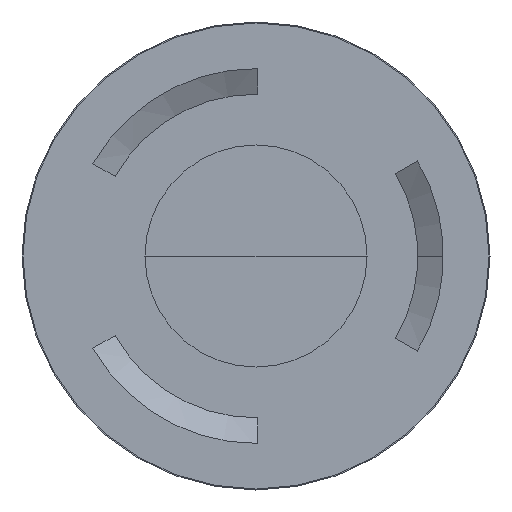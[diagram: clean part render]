
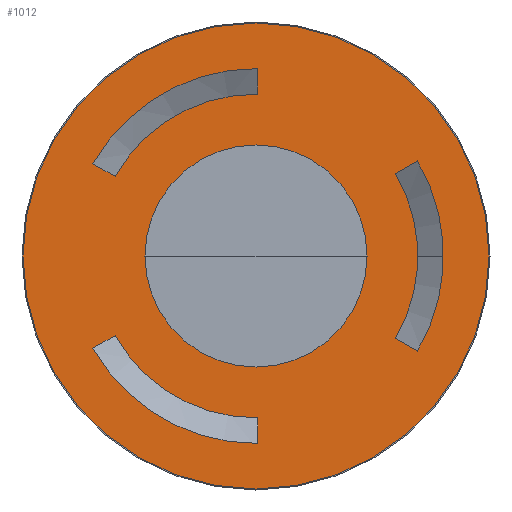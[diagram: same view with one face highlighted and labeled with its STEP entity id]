
A CAD part, front view. The second image highlights one B-rep face of the part: STEP entity #1012.
In plain terms, the highlighted planar face has unit normal (0, -1, 0).
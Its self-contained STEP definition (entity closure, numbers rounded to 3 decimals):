
#241=DIRECTION('',(0.866,0.,0.5));
#242=VECTOR('',#241,7.092);
#243=CARTESIAN_POINT('',(-45.208,-116.,-25.586));
#244=LINE('',#243,#242);
#245=CARTESIAN_POINT('',(0.,-116.,0.));
#246=DIRECTION('',(0.,1.,0.));
#247=DIRECTION('',(0.009,0.,-1.));
#248=AXIS2_PLACEMENT_3D('',#245,#246,#247);
#250=DIRECTION('',(0.,0.,-1.));
#251=VECTOR('',#250,7.092);
#252=CARTESIAN_POINT('',(0.446,-116.,-44.852));
#253=LINE('',#252,#251);
#254=CARTESIAN_POINT('',(0.,-116.,0.));
#255=DIRECTION('',(0.,-1.,0.));
#256=DIRECTION('',(-0.871,0.,-0.491));
#257=AXIS2_PLACEMENT_3D('',#254,#255,#256);
#259=CARTESIAN_POINT('',(0.,-116.,0.));
#260=DIRECTION('',(0.,-1.,0.));
#261=DIRECTION('',(0.861,0.,-0.509));
#262=AXIS2_PLACEMENT_3D('',#259,#260,#261);
#264=DIRECTION('',(-0.866,0.,0.5));
#265=VECTOR('',#264,7.092);
#266=CARTESIAN_POINT('',(44.762,-116.,-26.358));
#267=LINE('',#266,#265);
#268=CARTESIAN_POINT('',(0.,-116.,0.));
#269=DIRECTION('',(0.,1.,0.));
#270=DIRECTION('',(0.862,0.,0.507));
#271=AXIS2_PLACEMENT_3D('',#268,#269,#270);
#273=DIRECTION('',(0.866,0.,0.5));
#274=VECTOR('',#273,7.092);
#275=CARTESIAN_POINT('',(38.62,-116.,22.812));
#276=LINE('',#275,#274);
#277=DIRECTION('',(-0.866,0.,0.5));
#278=VECTOR('',#277,7.092);
#279=CARTESIAN_POINT('',(-39.066,-116.,22.04));
#280=LINE('',#279,#278);
#281=CARTESIAN_POINT('',(0.,-116.,0.));
#282=DIRECTION('',(0.,-1.,0.));
#283=DIRECTION('',(0.01,0.,1.));
#284=AXIS2_PLACEMENT_3D('',#281,#282,#283);
#286=DIRECTION('',(0.,0.,-1.));
#287=VECTOR('',#286,7.092);
#288=CARTESIAN_POINT('',(0.446,-116.,51.944));
#289=LINE('',#288,#287);
#290=CARTESIAN_POINT('',(0.,-116.,0.));
#291=DIRECTION('',(0.,1.,0.));
#292=DIRECTION('',(-0.87,0.,0.493));
#293=AXIS2_PLACEMENT_3D('',#290,#291,#292);
#295=CARTESIAN_POINT('',(0.,-116.,0.));
#296=DIRECTION('',(0.,1.,0.));
#297=DIRECTION('',(1.,0.,0.));
#298=AXIS2_PLACEMENT_3D('',#295,#296,#297);
#300=CARTESIAN_POINT('',(0.,-116.,0.));
#301=DIRECTION('',(0.,1.,0.));
#302=DIRECTION('',(-1.,0.,0.));
#303=AXIS2_PLACEMENT_3D('',#300,#301,#302);
#305=CARTESIAN_POINT('',(0.,-116.,0.));
#306=DIRECTION('',(0.,1.,0.));
#307=DIRECTION('',(1.,0.,0.));
#308=AXIS2_PLACEMENT_3D('',#305,#306,#307);
#310=CARTESIAN_POINT('',(0.,-116.,0.));
#311=DIRECTION('',(0.,1.,0.));
#312=DIRECTION('',(-1.,0.,0.));
#313=AXIS2_PLACEMENT_3D('',#310,#311,#312);
#557=CARTESIAN_POINT('',(64.586,-116.,0.));
#558=CARTESIAN_POINT('',(-64.586,-116.,0.));
#559=VERTEX_POINT('',#557);
#560=VERTEX_POINT('',#558);
#561=CARTESIAN_POINT('',(30.784,-116.,0.));
#562=CARTESIAN_POINT('',(-30.784,-116.,0.));
#563=VERTEX_POINT('',#561);
#564=VERTEX_POINT('',#562);
#565=CARTESIAN_POINT('',(-39.066,-116.,22.04));
#566=CARTESIAN_POINT('',(-45.208,-116.,25.586));
#567=VERTEX_POINT('',#565);
#568=VERTEX_POINT('',#566);
#569=CARTESIAN_POINT('',(0.446,-116.,51.944));
#570=VERTEX_POINT('',#569);
#571=CARTESIAN_POINT('',(0.446,-116.,44.852));
#572=VERTEX_POINT('',#571);
#573=CARTESIAN_POINT('',(38.62,-116.,-22.812));
#574=CARTESIAN_POINT('',(38.62,-116.,22.812));
#575=VERTEX_POINT('',#573);
#576=VERTEX_POINT('',#574);
#577=CARTESIAN_POINT('',(44.762,-116.,26.358));
#578=VERTEX_POINT('',#577);
#579=CARTESIAN_POINT('',(44.762,-116.,-26.358));
#580=VERTEX_POINT('',#579);
#581=CARTESIAN_POINT('',(-45.208,-116.,-25.586));
#582=CARTESIAN_POINT('',(-39.066,-116.,-22.04));
#583=VERTEX_POINT('',#581);
#584=VERTEX_POINT('',#582);
#585=CARTESIAN_POINT('',(0.446,-116.,-44.852));
#586=VERTEX_POINT('',#585);
#587=CARTESIAN_POINT('',(0.446,-116.,-51.944));
#588=VERTEX_POINT('',#587);
#965=CARTESIAN_POINT('',(0.,-116.,0.));
#966=DIRECTION('',(0.,1.,0.));
#967=DIRECTION('',(1.,0.,0.));
#968=AXIS2_PLACEMENT_3D('',#965,#966,#967);
#969=PLANE('',#968);
#971=ORIENTED_EDGE('',*,*,#970,.T.);
#973=ORIENTED_EDGE('',*,*,#972,.T.);
#974=EDGE_LOOP('',(#971,#973));
#975=FACE_OUTER_BOUND('',#974,.F.);
#977=ORIENTED_EDGE('',*,*,#976,.F.);
#979=ORIENTED_EDGE('',*,*,#978,.F.);
#981=ORIENTED_EDGE('',*,*,#980,.F.);
#983=ORIENTED_EDGE('',*,*,#982,.F.);
#984=EDGE_LOOP('',(#977,#979,#981,#983));
#985=FACE_BOUND('',#984,.F.);
#987=ORIENTED_EDGE('',*,*,#986,.F.);
#989=ORIENTED_EDGE('',*,*,#988,.F.);
#991=ORIENTED_EDGE('',*,*,#990,.F.);
#993=ORIENTED_EDGE('',*,*,#992,.F.);
#994=EDGE_LOOP('',(#987,#989,#991,#993));
#995=FACE_BOUND('',#994,.F.);
#997=ORIENTED_EDGE('',*,*,#996,.F.);
#999=ORIENTED_EDGE('',*,*,#998,.F.);
#1000=EDGE_LOOP('',(#997,#999));
#1001=FACE_BOUND('',#1000,.F.);
#1003=ORIENTED_EDGE('',*,*,#1002,.F.);
#1005=ORIENTED_EDGE('',*,*,#1004,.F.);
#1007=ORIENTED_EDGE('',*,*,#1006,.F.);
#1009=ORIENTED_EDGE('',*,*,#1008,.F.);
#1010=EDGE_LOOP('',(#1003,#1005,#1007,#1009));
#1011=FACE_BOUND('',#1010,.F.);
#1012=ADVANCED_FACE('',(#975,#985,#995,#1001,#1011),#969,.F.);
#249=CIRCLE('',#248,51.946);
#258=CIRCLE('',#257,44.854);
#263=CIRCLE('',#262,44.854);
#272=CIRCLE('',#271,51.946);
#285=CIRCLE('',#284,44.854);
#294=CIRCLE('',#293,51.946);
#299=CIRCLE('',#298,30.784);
#304=CIRCLE('',#303,30.784);
#309=CIRCLE('',#308,64.586);
#314=CIRCLE('',#313,64.586);
#970=EDGE_CURVE('',#559,#560,#309,.T.);
#972=EDGE_CURVE('',#560,#559,#314,.T.);
#976=EDGE_CURVE('',#575,#576,#263,.T.);
#978=EDGE_CURVE('',#580,#575,#267,.T.);
#980=EDGE_CURVE('',#578,#580,#272,.T.);
#982=EDGE_CURVE('',#576,#578,#276,.T.);
#986=EDGE_CURVE('',#567,#568,#280,.T.);
#988=EDGE_CURVE('',#572,#567,#285,.T.);
#990=EDGE_CURVE('',#570,#572,#289,.T.);
#992=EDGE_CURVE('',#568,#570,#294,.T.);
#996=EDGE_CURVE('',#563,#564,#299,.T.);
#998=EDGE_CURVE('',#564,#563,#304,.T.);
#1002=EDGE_CURVE('',#583,#584,#244,.T.);
#1004=EDGE_CURVE('',#588,#583,#249,.T.);
#1006=EDGE_CURVE('',#586,#588,#253,.T.);
#1008=EDGE_CURVE('',#584,#586,#258,.T.);
